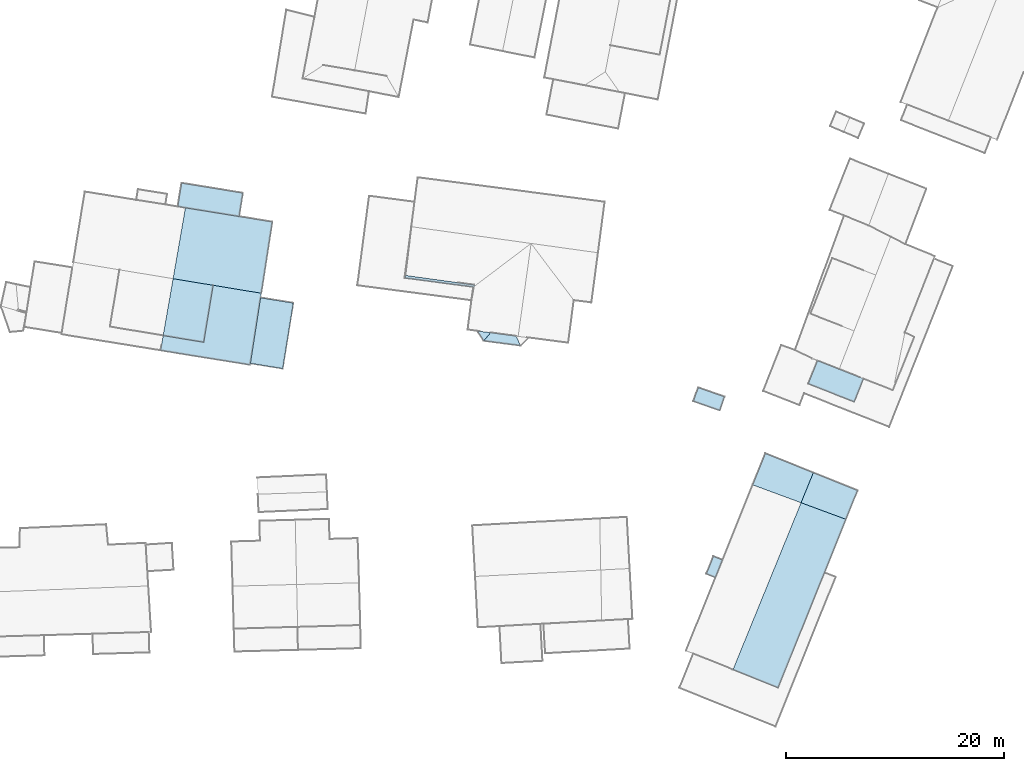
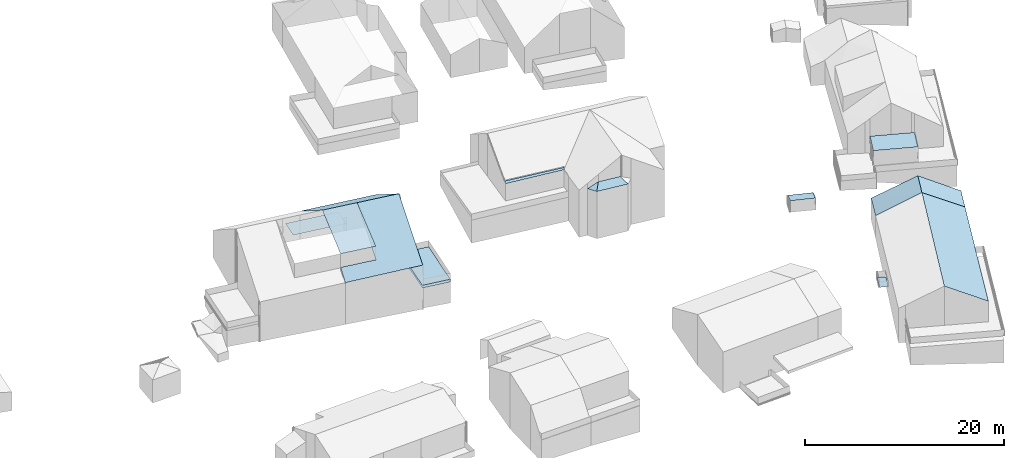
# Not in any storey, part 54 of 57: 30 roofs.
"""IFC2X3 building model written with IfcOpenShell, lengths in metres."""

from ifc_helpers import new_model, entity, si_unit, converted_unit, frame, origin, place, context, subcontext, project, spatial, face_set, surface_model, element, save


model = new_model("IFC2X3")

# Units and contexts
model_context = context("Model", 3, precision=1e-05, world=origin())
body_context = subcontext(model_context, "Body", "Model", "MODEL_VIEW")
ifc_project = project(units=[converted_unit("PLANEANGLEUNIT", "DEGREE", entity("IfcRatioMeasure", 0.0174532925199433), si_unit("PLANEANGLEUNIT", "RADIAN"), dimensions=[0, 0, 0, 0, 0, 0, 0]), si_unit("AREAUNIT", "SQUARE_METRE"), si_unit("LENGTHUNIT", "METRE")], contexts=[model_context])

# Site, building
site_placement = place(None, origin())
site = spatial("IfcSite", under=ifc_project, at=site_placement, Name="_site", CompositionType="ELEMENT")
building_1_placement = place(site_placement, origin())
building_1 = spatial("IfcBuilding", under=site, at=building_1_placement, Name="_building", CompositionType="ELEMENT")

# Roofs
roof_1_placement = place(building_1_placement, origin())
element("IfcRoof", 1, at=roof_1_placement, inside=building_1, Name="Roof", ShapeType="NOTDEFINED", context=body_context, shape_type="SurfaceModel", body=[
    surface_model("IfcFaceBasedSurfaceModel", [(263.756, 71.207, 111.04), (267.872, 69.688, 108.76), (268.934, 72.325, 108.76), (264.88, 73.961, 111.04)], [face_set([[[0, 1, 2, 3]]])]),
])
roof_2_placement = place(building_1_placement, origin())
element("IfcRoof", 2, at=roof_2_placement, inside=building_1, Name="Roof", ShapeType="NOTDEFINED", context=body_context, shape_type="SurfaceModel", body=[
    surface_model("IfcFaceBasedSurfaceModel", [(259.33, 72.84, 108.76), (263.756, 71.207, 111.04), (264.88, 73.961, 111.04), (260.489, 75.724, 108.76)], [face_set([[[0, 1, 2, 3]]])]),
])
roof_3_placement = place(building_1_placement, origin())
element("IfcRoof", 3, at=roof_3_placement, inside=building_1, Name="Roof", ShapeType="NOTDEFINED", context=body_context, shape_type="SurfaceModel", body=[
    surface_model("IfcFaceBasedSurfaceModel", [(263.756, 71.207, 111.04), (267.872, 69.688, 108.76), (268.934, 72.325, 108.76), (264.88, 73.961, 111.04)], [face_set([[[0, 1, 2, 3]]])]),
])
roof_4_placement = place(building_1_placement, origin())
element("IfcRoof", 4, at=roof_4_placement, inside=building_1, Name="Roof", ShapeType="NOTDEFINED", context=body_context, shape_type="SurfaceModel", body=[
    surface_model("IfcFaceBasedSurfaceModel", [(259.33, 72.84, 108.76), (263.756, 71.207, 111.04), (264.88, 73.961, 111.04), (260.489, 75.724, 108.76)], [face_set([[[0, 1, 2, 3]]])]),
])

# Building
building_2_placement = place(site_placement, origin())
building_2 = spatial("IfcBuilding", under=site, at=building_2_placement, Name="_building", CompositionType="ELEMENT")

# Roofs
for number, where, name in (
    (5, (0.0, 0.0, 0.0), "Roof"),
    (6, (0.0, 0.0, 0.0), "Roof"),
):
    element("IfcRoof", number, at=place(building_2_placement, frame(where)), inside=building_2, Name=name, ShapeType="NOTDEFINED", context=body_context, shape_type="SurfaceModel", body=[
        surface_model("IfcFaceBasedSurfaceModel", [(253.886, 80.512, 107.84), (256.298, 79.665, 107.84), (256.738, 80.915, 107.6), (254.326, 81.762, 107.6)], [face_set([[[0, 1, 2, 3]]])]),
    ])

# Building
building_3_placement = place(site_placement, origin())
building_3 = spatial("IfcBuilding", under=site, at=building_3_placement, Name="_building", CompositionType="ELEMENT")

# Roofs
roof_5_placement = place(building_3_placement, origin())
element("IfcRoof", 7, at=roof_5_placement, inside=building_3, Name="Roof", ShapeType="NOTDEFINED", context=body_context, shape_type="SurfaceModel", body=[
    surface_model("IfcFaceBasedSurfaceModel", [(257.513, 55.902, 111.04), (261.656, 54.234, 108.76), (265.906, 64.801, 108.76), (267.872, 69.688, 108.76), (263.756, 71.207, 111.04)], [face_set([[[0, 1, 2, 3, 4]]])]),
])
for number, where, name in (
    (8, (0.0, 0.0, 0.0), "Roof"),
    (9, (0.0, 0.0, 0.0), "Roof"),
):
    element("IfcRoof", number, at=place(building_3_placement, frame(where)), inside=building_3, Name=name, ShapeType="NOTDEFINED", context=body_context, shape_type="SurfaceModel", body=[
        surface_model("IfcFaceBasedSurfaceModel", [(256.558, 65.96, 106.42), (255.725, 66.29, 106.42), (255.077, 64.684, 106.42), (255.909, 64.344, 106.42)], [face_set([[[0, 1, 2, 3]]])]),
    ])
roof_6_placement = place(building_3_placement, origin())
element("IfcRoof", 10, at=roof_6_placement, inside=building_3, Name="Roof", ShapeType="NOTDEFINED", context=body_context, shape_type="SurfaceModel", body=[
    surface_model("IfcFaceBasedSurfaceModel", [(257.513, 55.902, 111.04), (261.656, 54.234, 108.76), (265.906, 64.801, 108.76), (267.872, 69.688, 108.76), (263.756, 71.207, 111.04)], [face_set([[[0, 1, 2, 3, 4]]])]),
])

# Building
building_4_placement = place(site_placement, origin())
building_4 = spatial("IfcBuilding", under=site, at=building_4_placement, Name="_building", CompositionType="ELEMENT")

# Roofs
for number, where, name in (
    (11, (0.0, 0.0, 0.0), "Roof"),
    (12, (0.0, 0.0, 0.0), "Roof"),
):
    element("IfcRoof", number, at=place(building_4_placement, frame(where)), inside=building_4, Name=name, ShapeType="NOTDEFINED", context=body_context, shape_type="SurfaceModel", body=[
        surface_model("IfcFaceBasedSurfaceModel", [(233.709, 90.98, 112.35), (233.768, 91.024, 112.383), (233.794, 91.179, 112.486), (227.5, 92.046, 112.511), (227.414, 91.808, 112.35)], [face_set([[[0, 1, 2, 3, 4]]])]),
    ])

# Building
building_5_placement = place(site_placement, origin())
building_5 = spatial("IfcBuilding", under=site, at=building_5_placement, Name="_building", CompositionType="ELEMENT")

# Roofs
roof_7_placement = place(building_5_placement, origin())
element("IfcRoof", 13, at=roof_7_placement, inside=building_5, Name="Roof", ShapeType="NOTDEFINED", context=body_context, shape_type="SurfaceModel", body=[
    surface_model("IfcFaceBasedSurfaceModel", [(235.292, 86.801, 112.88), (234.095, 86.949, 112.35), (234.664, 86.045, 112.35)], [face_set([[[0, 1, 2]]])]),
])
for number, where, name in (
    (14, (0.0, 0.0, 0.0), "Roof"),
    (15, (0.0, 0.0, 0.0), "Roof"),
):
    element("IfcRoof", number, at=place(building_5_placement, frame(where)), inside=building_5, Name=name, ShapeType="NOTDEFINED", context=body_context, shape_type="SurfaceModel", body=[
        surface_model("IfcFaceBasedSurfaceModel", [(234.664, 86.045, 112.35), (238.046, 85.605, 112.35), (237.626, 86.486, 112.88), (235.292, 86.801, 112.88)], [face_set([[[0, 1, 2, 3]]])]),
    ])
roof_8_placement = place(building_5_placement, origin())
element("IfcRoof", 16, at=roof_8_placement, inside=building_5, Name="Roof", ShapeType="NOTDEFINED", context=body_context, shape_type="SurfaceModel", body=[
    surface_model("IfcFaceBasedSurfaceModel", [(235.292, 86.801, 112.88), (234.095, 86.949, 112.35), (234.664, 86.045, 112.35)], [face_set([[[0, 1, 2]]])]),
])

# Building
building_6_placement = place(site_placement, origin())
building_6 = spatial("IfcBuilding", under=site, at=building_6_placement, Name="_building", CompositionType="ELEMENT")

# Roofs
roof_9_placement = place(building_6_placement, origin())
element("IfcRoof", 17, at=roof_9_placement, inside=building_6, Name="Roof", ShapeType="NOTDEFINED", context=body_context, shape_type="SurfaceModel", body=[
    surface_model("IfcFaceBasedSurfaceModel", [(213.273, 83.984, 109.28), (216.233, 83.505, 109.28), (217.204, 89.515, 109.28), (214.204, 89.996, 109.28)], [face_set([[[0, 1, 2, 3]]])]),
])
for number, where, name in (
    (18, (0.0, 0.0, 0.0), "Roof"),
    (19, (0.0, 0.0, 0.0), "Roof"),
):
    element("IfcRoof", number, at=place(building_6_placement, frame(where)), inside=building_6, Name=name, ShapeType="NOTDEFINED", context=body_context, shape_type="SurfaceModel", body=[
        surface_model("IfcFaceBasedSurfaceModel", [(214.204, 89.996, 109.6), (213.273, 83.984, 109.6), (216.233, 83.505, 109.6), (217.204, 89.515, 109.6)], [face_set([[[0, 1, 2, 3]]])]),
    ])
roof_10_placement = place(building_6_placement, origin())
element("IfcRoof", 20, at=roof_10_placement, inside=building_6, Name="Roof", ShapeType="NOTDEFINED", context=body_context, shape_type="SurfaceModel", body=[
    surface_model("IfcFaceBasedSurfaceModel", [(213.273, 83.984, 109.28), (216.233, 83.505, 109.28), (217.204, 89.515, 109.28), (214.204, 89.996, 109.28)], [face_set([[[0, 1, 2, 3]]])]),
])

# Building
building_7_placement = place(site_placement, origin())
building_7 = spatial("IfcBuilding", under=site, at=building_7_placement, Name="_building", CompositionType="ELEMENT")

# Roofs
for number, where, name in (
    (21, (0.0, 0.0, 0.0), "Roof"),
    (22, (0.0, 0.0, 0.0), "Roof"),
):
    element("IfcRoof", number, at=place(building_7_placement, frame(where)), inside=building_7, Name=name, ShapeType="NOTDEFINED", context=body_context, shape_type="SurfaceModel", body=[
        surface_model("IfcFaceBasedSurfaceModel", [(267.253, 83.451, 109.51), (265.261, 84.238, 109.51), (264.42, 82.106, 109.32), (268.634, 80.447, 109.32), (269.474, 82.568, 109.51), (269.157, 82.696, 109.51)], [face_set([[[0, 1, 2, 3, 4, 5]]])]),
    ])

# Building
building_8_placement = place(site_placement, origin())
building_8 = spatial("IfcBuilding", under=site, at=building_8_placement, Name="_building", CompositionType="ELEMENT")

# Roofs
roof_11_placement = place(building_8_placement, origin())
element("IfcRoof", 23, at=roof_11_placement, inside=building_8, Name="Roof", ShapeType="NOTDEFINED", context=body_context, shape_type="SurfaceModel", body=[
    surface_model("IfcFaceBasedSurfaceModel", [(214.274, 90.415, 116.58), (215.287, 96.955, 112.12), (207.312, 98.242, 112.12), (206.181, 91.749, 116.585), (209.859, 91.142, 116.583)], [face_set([[[0, 1, 2, 3, 4]]])]),
])
roof_12_placement = place(building_8_placement, origin())
element("IfcRoof", 24, at=roof_12_placement, inside=building_8, Name="Roof", ShapeType="NOTDEFINED", context=body_context, shape_type="SurfaceModel", body=[
    surface_model("IfcFaceBasedSurfaceModel", [(206.181, 91.749, 116.58), (205.272, 86.532, 114.72), (208.995, 85.916, 114.72), (209.859, 91.142, 116.58)], [face_set([[[0, 1, 2, 3]]])]),
])
roof_13_placement = place(building_8_placement, origin())
element("IfcRoof", 25, at=roof_13_placement, inside=building_8, Name="Roof", ShapeType="NOTDEFINED", context=body_context, shape_type="SurfaceModel", body=[
    surface_model("IfcFaceBasedSurfaceModel", [(209.859, 91.142, 116.583), (208.995, 85.916, 113.056), (205.272, 86.532, 113.056), (205.035, 85.168, 112.09), (213.249, 83.845, 112.17), (213.273, 83.984, 112.26), (214.204, 89.996, 116.3), (214.274, 90.415, 116.58)], [face_set([[[0, 1, 2, 3, 4, 5, 6, 7]]])]),
])
roof_14_placement = place(building_8_placement, origin())
element("IfcRoof", 26, at=roof_14_placement, inside=building_8, Name="Roof", ShapeType="NOTDEFINED", context=body_context, shape_type="SurfaceModel", body=[
    surface_model("IfcFaceBasedSurfaceModel", [(214.274, 90.415, 116.58), (215.287, 96.955, 112.12), (207.312, 98.242, 112.12), (206.181, 91.749, 116.585), (209.859, 91.142, 116.583)], [face_set([[[0, 1, 2, 3, 4]]])]),
])
roof_15_placement = place(building_8_placement, origin())
element("IfcRoof", 27, at=roof_15_placement, inside=building_8, Name="Roof", ShapeType="NOTDEFINED", context=body_context, shape_type="SurfaceModel", body=[
    surface_model("IfcFaceBasedSurfaceModel", [(206.181, 91.749, 116.58), (205.272, 86.532, 114.72), (208.995, 85.916, 114.72), (209.859, 91.142, 116.58)], [face_set([[[0, 1, 2, 3]]])]),
])
for number, where, name in (
    (28, (0.0, 0.0, 0.0), "Roof"),
    (29, (0.0, 0.0, 0.0), "Roof"),
):
    element("IfcRoof", number, at=place(building_8_placement, frame(where)), inside=building_8, Name=name, ShapeType="NOTDEFINED", context=body_context, shape_type="SurfaceModel", body=[
        surface_model("IfcFaceBasedSurfaceModel", [(206.615, 98.359, 109.36), (212.237, 97.447, 109.36), (212.587, 99.6, 109.36), (206.965, 100.512, 109.36)], [face_set([[[0, 1, 2, 3]]])]),
    ])
roof_16_placement = place(building_8_placement, origin())
element("IfcRoof", 30, at=roof_16_placement, inside=building_8, Name="Roof", ShapeType="NOTDEFINED", context=body_context, shape_type="SurfaceModel", body=[
    surface_model("IfcFaceBasedSurfaceModel", [(209.859, 91.142, 116.583), (208.995, 85.916, 113.056), (205.272, 86.532, 113.056), (205.035, 85.168, 112.09), (213.249, 83.845, 112.17), (213.273, 83.984, 112.26), (214.204, 89.996, 116.3), (214.274, 90.415, 116.58)], [face_set([[[0, 1, 2, 3, 4, 5, 6, 7]]])]),
])

save(model, "model.ifc")
